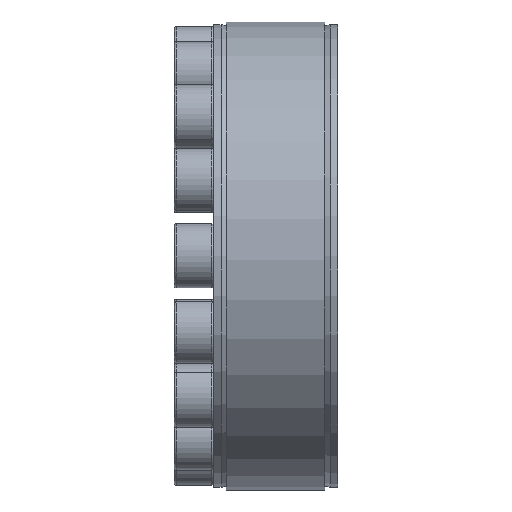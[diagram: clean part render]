
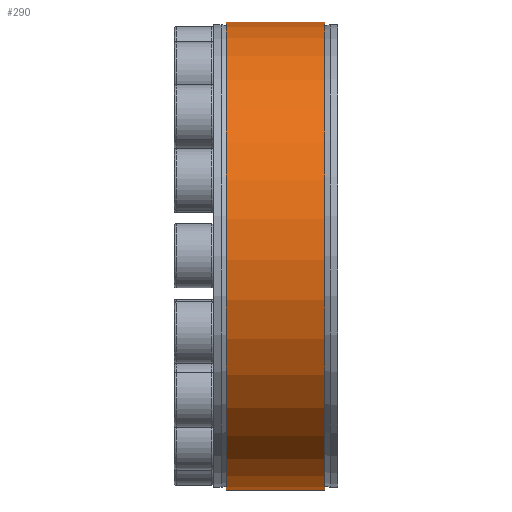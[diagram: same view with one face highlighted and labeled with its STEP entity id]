
A CAD part, front view. The second image highlights one B-rep face of the part: STEP entity #290.
In plain terms, the highlighted cylindrical face has radius 47.5 mm (diameter 95 mm), a partial arc.
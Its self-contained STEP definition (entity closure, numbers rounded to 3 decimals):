
#127 = LINE ( 'NONE', #10640, #7149 ) ;
#233 = DIRECTION ( 'NONE',  ( -1., 0., 0. ) ) ;
#290 = ADVANCED_FACE ( 'NONE', ( #2376 ), #7003, .T. ) ;
#355 = EDGE_CURVE ( 'NONE', #8393, #6376, #8862, .T. ) ;
#515 = CARTESIAN_POINT ( 'NONE',  ( 10.003, 0., 0. ) ) ;
#609 = CARTESIAN_POINT ( 'NONE',  ( -12.594, 1.5, 47.476 ) ) ;
#2014 = ORIENTED_EDGE ( 'NONE', *, *, #4435, .F. ) ;
#2115 = VERTEX_POINT ( 'NONE', #4792 ) ;
#2186 = CIRCLE ( 'NONE', #3615, 47.5 ) ;
#2376 = FACE_OUTER_BOUND ( 'NONE', #8408, .T. ) ;
#2945 = DIRECTION ( 'NONE',  ( 0., 0., 1. ) ) ;
#3230 = DIRECTION ( 'NONE',  ( -1., 0., 0. ) ) ;
#3348 = AXIS2_PLACEMENT_3D ( 'NONE', #3879, #233, #2945 ) ;
#3615 = AXIS2_PLACEMENT_3D ( 'NONE', #515, #3230, #8681 ) ;
#3879 = CARTESIAN_POINT ( 'NONE',  ( -12.594, 0., 0. ) ) ;
#4435 = EDGE_CURVE ( 'NONE', #9381, #8393, #5825, .T. ) ;
#4510 = DIRECTION ( 'NONE',  ( -1., 0., 0. ) ) ;
#4647 = CARTESIAN_POINT ( 'NONE',  ( -9.997, -1.5, 47.476 ) ) ;
#4792 = CARTESIAN_POINT ( 'NONE',  ( 10.003, -1.5, 47.476 ) ) ;
#4795 = CARTESIAN_POINT ( 'NONE',  ( 10.003, 1.5, 47.476 ) ) ;
#4889 = EDGE_CURVE ( 'NONE', #9381, #2115, #2186, .T. ) ;
#5825 = LINE ( 'NONE', #609, #7963 ) ;
#6337 = CARTESIAN_POINT ( 'NONE',  ( -9.997, 1.5, 47.476 ) ) ;
#6374 = CARTESIAN_POINT ( 'NONE',  ( -9.997, 0., 0. ) ) ;
#6376 = VERTEX_POINT ( 'NONE', #4647 ) ;
#7003 = CYLINDRICAL_SURFACE ( 'NONE', #3348, 47.5 ) ;
#7059 = AXIS2_PLACEMENT_3D ( 'NONE', #6374, #4510, #9911 ) ;
#7149 = VECTOR ( 'NONE', #10994, 1000. ) ;
#7824 = EDGE_CURVE ( 'NONE', #6376, #2115, #127, .T. ) ;
#7890 = DIRECTION ( 'NONE',  ( -1., 0., 0. ) ) ;
#7963 = VECTOR ( 'NONE', #7890, 1000. ) ;
#8393 = VERTEX_POINT ( 'NONE', #6337 ) ;
#8408 = EDGE_LOOP ( 'NONE', ( #2014, #9553, #11387, #9717 ) ) ;
#8681 = DIRECTION ( 'NONE',  ( 0., 0., 1. ) ) ;
#8862 = CIRCLE ( 'NONE', #7059, 47.5 ) ;
#9381 = VERTEX_POINT ( 'NONE', #4795 ) ;
#9553 = ORIENTED_EDGE ( 'NONE', *, *, #4889, .T. ) ;
#9717 = ORIENTED_EDGE ( 'NONE', *, *, #355, .F. ) ;
#9911 = DIRECTION ( 'NONE',  ( 0., 0., 1. ) ) ;
#10640 = CARTESIAN_POINT ( 'NONE',  ( -12.594, -1.5, 47.476 ) ) ;
#10994 = DIRECTION ( 'NONE',  ( 1., 0., 0. ) ) ;
#11387 = ORIENTED_EDGE ( 'NONE', *, *, #7824, .F. ) ;
